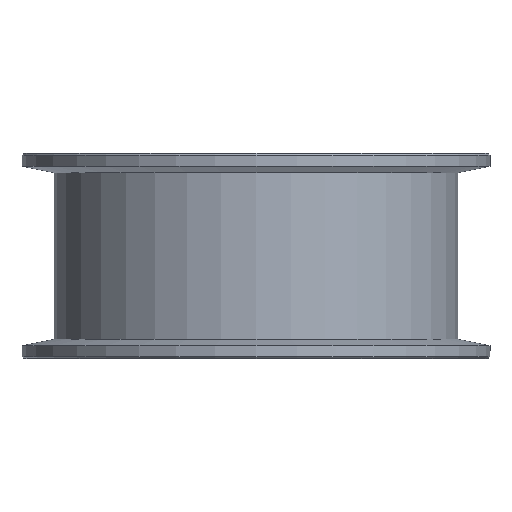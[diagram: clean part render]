
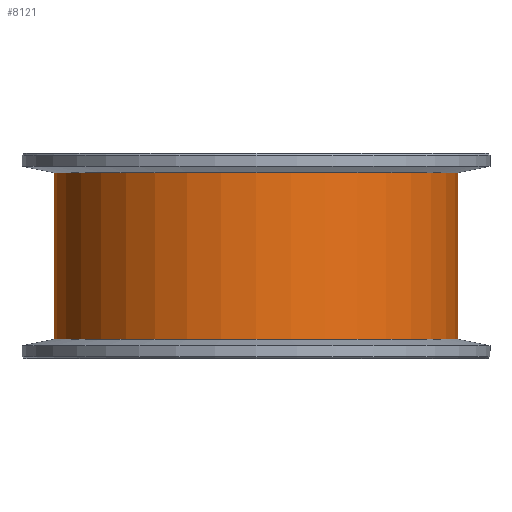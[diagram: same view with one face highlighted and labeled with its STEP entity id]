
A CAD part, front view. The second image highlights one B-rep face of the part: STEP entity #8121.
In plain terms, the highlighted cylindrical face has radius 31.5 mm (diameter 63 mm), a partial arc.
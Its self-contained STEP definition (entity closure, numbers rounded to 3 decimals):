
#438 = ORIENTED_EDGE ( 'NONE', *, *, #9724, .T. ) ;
#869 = CYLINDRICAL_SURFACE ( 'NONE', #11920, 31.5 ) ;
#1017 = VECTOR ( 'NONE', #3632, 1000. ) ;
#1397 = CARTESIAN_POINT ( 'NONE',  ( 5.115, -7.597, 16.605 ) ) ;
#1713 = CARTESIAN_POINT ( 'NONE',  ( -26.385, -7.597, 45.605 ) ) ;
#2067 = DIRECTION ( 'NONE',  ( 0., 0., 1. ) ) ;
#2090 = DIRECTION ( 'NONE',  ( 0., 0., 1. ) ) ;
#3632 = DIRECTION ( 'NONE',  ( 0., 0., 1. ) ) ;
#4104 = AXIS2_PLACEMENT_3D ( 'NONE', #15479, #8756, #16974 ) ;
#4669 = CIRCLE ( 'NONE', #4104, 31.5 ) ;
#6657 = LINE ( 'NONE', #15785, #1017 ) ;
#8059 = EDGE_CURVE ( 'NONE', #15372, #13714, #15303, .T. ) ;
#8121 = ADVANCED_FACE ( 'NONE', ( #10005 ), #869, .T. ) ;
#8756 = DIRECTION ( 'NONE',  ( 0., 0., 1. ) ) ;
#9724 = EDGE_CURVE ( 'NONE', #15501, #15372, #4669, .T. ) ;
#9913 = AXIS2_PLACEMENT_3D ( 'NONE', #1713, #2067, #15366 ) ;
#10005 = FACE_OUTER_BOUND ( 'NONE', #11056, .T. ) ;
#10335 = VERTEX_POINT ( 'NONE', #16581 ) ;
#10482 = EDGE_CURVE ( 'NONE', #15501, #10335, #6657, .T. ) ;
#11056 = EDGE_LOOP ( 'NONE', ( #13919, #438, #15195, #12153 ) ) ;
#11266 = CARTESIAN_POINT ( 'NONE',  ( 5.115, -7.597, 45.605 ) ) ;
#11920 = AXIS2_PLACEMENT_3D ( 'NONE', #17073, #2090, #15480 ) ;
#12153 = ORIENTED_EDGE ( 'NONE', *, *, #12344, .F. ) ;
#12344 = EDGE_CURVE ( 'NONE', #10335, #13714, #12774, .T. ) ;
#12623 = CARTESIAN_POINT ( 'NONE',  ( 5.115, -7.597, 19.605 ) ) ;
#12774 = CIRCLE ( 'NONE', #9913, 31.5 ) ;
#13714 = VERTEX_POINT ( 'NONE', #11266 ) ;
#13919 = ORIENTED_EDGE ( 'NONE', *, *, #10482, .F. ) ;
#14486 = VECTOR ( 'NONE', #16696, 1000. ) ;
#15195 = ORIENTED_EDGE ( 'NONE', *, *, #8059, .T. ) ;
#15303 = LINE ( 'NONE', #1397, #14486 ) ;
#15366 = DIRECTION ( 'NONE',  ( 1., 0., 0. ) ) ;
#15372 = VERTEX_POINT ( 'NONE', #12623 ) ;
#15479 = CARTESIAN_POINT ( 'NONE',  ( -26.385, -7.597, 19.605 ) ) ;
#15480 = DIRECTION ( 'NONE',  ( 1., 0., 0. ) ) ;
#15501 = VERTEX_POINT ( 'NONE', #16900 ) ;
#15785 = CARTESIAN_POINT ( 'NONE',  ( -57.885, -7.597, 16.605 ) ) ;
#16581 = CARTESIAN_POINT ( 'NONE',  ( -57.885, -7.597, 45.605 ) ) ;
#16696 = DIRECTION ( 'NONE',  ( 0., 0., 1. ) ) ;
#16900 = CARTESIAN_POINT ( 'NONE',  ( -57.885, -7.597, 19.605 ) ) ;
#16974 = DIRECTION ( 'NONE',  ( 1., 0., 0. ) ) ;
#17073 = CARTESIAN_POINT ( 'NONE',  ( -26.385, -7.597, 16.605 ) ) ;
